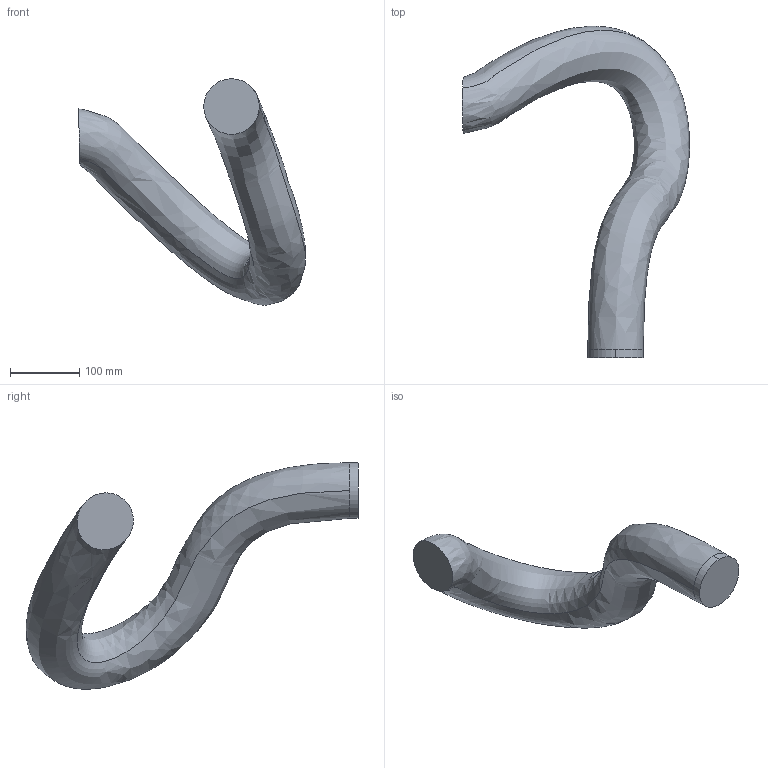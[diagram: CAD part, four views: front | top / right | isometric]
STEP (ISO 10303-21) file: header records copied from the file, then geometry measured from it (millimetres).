
FILE_DESCRIPTION (( 'STEP AP214' ), '1' );
FILE_NAME ('IRB6720-LID_140kg-320_OC_00_LINK05_CABLE.step', '2026-06-10T12:01:22', ( '' ), ( '' ), 'SwSTEP 2.0', 'SolidWorks 2024', '' );
FILE_SCHEMA (( 'AUTOMOTIVE_DESIGN' ));
Length unit declared in the file: millimetre
Products named in the file (1): IRB6720-LID_140kg-320_OC_00_LINK05_CABLE
Bounding box: 327.08 x 478.25 x 326.16 mm (x, y, z)
Volume: 4417395.6 mm3; surface area: 230778.8 mm2
Topology: 1 solids, 1 shells, 6 faces, 12 edges, 8 vertices
Faces by surface type: bspline 2, cylinder 2, plane 2
Entity records: 2599 total; most frequent: CARTESIAN_POINT 2457, ORIENTED_EDGE 24, DIRECTION 24, EDGE_CURVE 12, AXIS2_PLACEMENT_3D 11, VERTEX_POINT 8, CIRCLE 6, FACE_OUTER_BOUND 6
